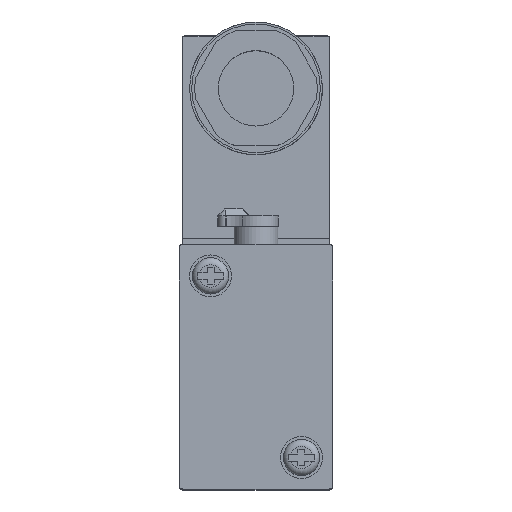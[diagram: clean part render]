
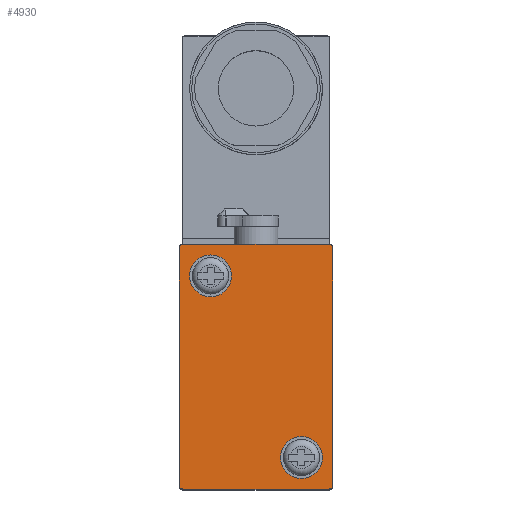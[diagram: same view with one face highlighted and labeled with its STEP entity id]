
A CAD part, top view. The second image highlights one B-rep face of the part: STEP entity #4930.
In plain terms, the highlighted planar face has unit normal (0, 0, 1).
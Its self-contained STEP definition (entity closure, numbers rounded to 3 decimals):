
#59=PLANE('',#5356);
#327=FACE_BOUND('',#756,.T.);
#328=FACE_BOUND('',#757,.T.);
#416=FACE_OUTER_BOUND('',#755,.T.);
#755=EDGE_LOOP('',(#3715,#3716,#3717,#3718,#3719,#3720,#3721,#3722));
#756=EDGE_LOOP('',(#3723));
#757=EDGE_LOOP('',(#3724));
#1154=LINE('',#7940,#1629);
#1157=LINE('',#7946,#1632);
#1160=LINE('',#7952,#1635);
#1165=LINE('',#7962,#1640);
#1629=VECTOR('',#6201,34.);
#1632=VECTOR('',#6206,21.);
#1635=VECTOR('',#6211,34.);
#1640=VECTOR('',#6218,21.);
#2011=CIRCLE('',#5221,3.);
#2013=CIRCLE('',#5224,3.);
#2075=CIRCLE('',#5357,0.5);
#2076=CIRCLE('',#5358,0.5);
#2077=CIRCLE('',#5359,0.5);
#2078=CIRCLE('',#5360,0.5);
#2238=VERTEX_POINT('',#7505);
#2240=VERTEX_POINT('',#7510);
#2416=VERTEX_POINT('',#7938);
#2417=VERTEX_POINT('',#7939);
#2418=VERTEX_POINT('',#7944);
#2419=VERTEX_POINT('',#7945);
#2420=VERTEX_POINT('',#7950);
#2421=VERTEX_POINT('',#7951);
#2424=VERTEX_POINT('',#7959);
#2425=VERTEX_POINT('',#7961);
#2721=EDGE_CURVE('',#2238,#2238,#2011,.T.);
#2723=EDGE_CURVE('',#2240,#2240,#2013,.T.);
#2924=EDGE_CURVE('',#2416,#2417,#1154,.T.);
#2927=EDGE_CURVE('',#2418,#2419,#1157,.T.);
#2930=EDGE_CURVE('',#2420,#2421,#1160,.T.);
#2935=EDGE_CURVE('',#2425,#2424,#1165,.T.);
#2937=EDGE_CURVE('',#2424,#2416,#2075,.T.);
#2938=EDGE_CURVE('',#2417,#2418,#2076,.T.);
#2939=EDGE_CURVE('',#2419,#2420,#2077,.T.);
#2940=EDGE_CURVE('',#2421,#2425,#2078,.T.);
#3715=ORIENTED_EDGE('',*,*,#2935,.T.);
#3716=ORIENTED_EDGE('',*,*,#2937,.T.);
#3717=ORIENTED_EDGE('',*,*,#2924,.T.);
#3718=ORIENTED_EDGE('',*,*,#2938,.T.);
#3719=ORIENTED_EDGE('',*,*,#2927,.T.);
#3720=ORIENTED_EDGE('',*,*,#2939,.T.);
#3721=ORIENTED_EDGE('',*,*,#2930,.T.);
#3722=ORIENTED_EDGE('',*,*,#2940,.T.);
#3723=ORIENTED_EDGE('',*,*,#2721,.F.);
#3724=ORIENTED_EDGE('',*,*,#2723,.F.);
#4930=ADVANCED_FACE('',(#416,#327,#328),#59,.F.);
#5221=AXIS2_PLACEMENT_3D('',#7506,#5814,#5815);
#5224=AXIS2_PLACEMENT_3D('',#7511,#5820,#5821);
#5356=AXIS2_PLACEMENT_3D('',#7964,#6220,#6221);
#5357=AXIS2_PLACEMENT_3D('',#7965,#6222,#6223);
#5358=AXIS2_PLACEMENT_3D('',#7966,#6224,#6225);
#5359=AXIS2_PLACEMENT_3D('',#7967,#6226,#6227);
#5360=AXIS2_PLACEMENT_3D('',#7968,#6228,#6229);
#5814=DIRECTION('center_axis',(0.,0.,1.));
#5815=DIRECTION('ref_axis',(1.,0.,0.));
#5820=DIRECTION('center_axis',(0.,0.,1.));
#5821=DIRECTION('ref_axis',(1.,0.,0.));
#6201=DIRECTION('',(0.,-1.,0.));
#6206=DIRECTION('',(1.,0.,0.));
#6211=DIRECTION('',(0.,1.,0.));
#6218=DIRECTION('',(-1.,0.,0.));
#6220=DIRECTION('center_axis',(0.,0.,-1.));
#6221=DIRECTION('ref_axis',(-1.,0.,0.));
#6222=DIRECTION('center_axis',(0.,0.,1.));
#6223=DIRECTION('ref_axis',(-1.,0.,0.));
#6224=DIRECTION('center_axis',(0.,0.,1.));
#6225=DIRECTION('ref_axis',(-1.,0.,0.));
#6226=DIRECTION('center_axis',(0.,0.,1.));
#6227=DIRECTION('ref_axis',(-1.,0.,0.));
#6228=DIRECTION('center_axis',(0.,0.,1.));
#6229=DIRECTION('ref_axis',(-1.,0.,0.));
#7505=CARTESIAN_POINT('',(-3.5,13.,7.));
#7506=CARTESIAN_POINT('Origin',(-6.5,13.,7.));
#7510=CARTESIAN_POINT('',(9.5,-13.,7.));
#7511=CARTESIAN_POINT('Origin',(6.5,-13.,7.));
#7938=CARTESIAN_POINT('',(-11.,17.,7.));
#7939=CARTESIAN_POINT('',(-11.,-17.,7.));
#7940=CARTESIAN_POINT('',(-11.,-17.5,7.));
#7944=CARTESIAN_POINT('',(-10.5,-17.5,7.));
#7945=CARTESIAN_POINT('',(10.5,-17.5,7.));
#7946=CARTESIAN_POINT('',(11.,-17.5,7.));
#7950=CARTESIAN_POINT('',(11.,-17.,7.));
#7951=CARTESIAN_POINT('',(11.,17.,7.));
#7952=CARTESIAN_POINT('',(11.,17.5,7.));
#7959=CARTESIAN_POINT('',(-10.5,17.5,7.));
#7961=CARTESIAN_POINT('',(10.5,17.5,7.));
#7962=CARTESIAN_POINT('',(-11.,17.5,7.));
#7964=CARTESIAN_POINT('Origin',(0.,0.,7.));
#7965=CARTESIAN_POINT('Origin',(-10.5,17.,7.));
#7966=CARTESIAN_POINT('Origin',(-10.5,-17.,7.));
#7967=CARTESIAN_POINT('Origin',(10.5,-17.,7.));
#7968=CARTESIAN_POINT('Origin',(10.5,17.,7.));
